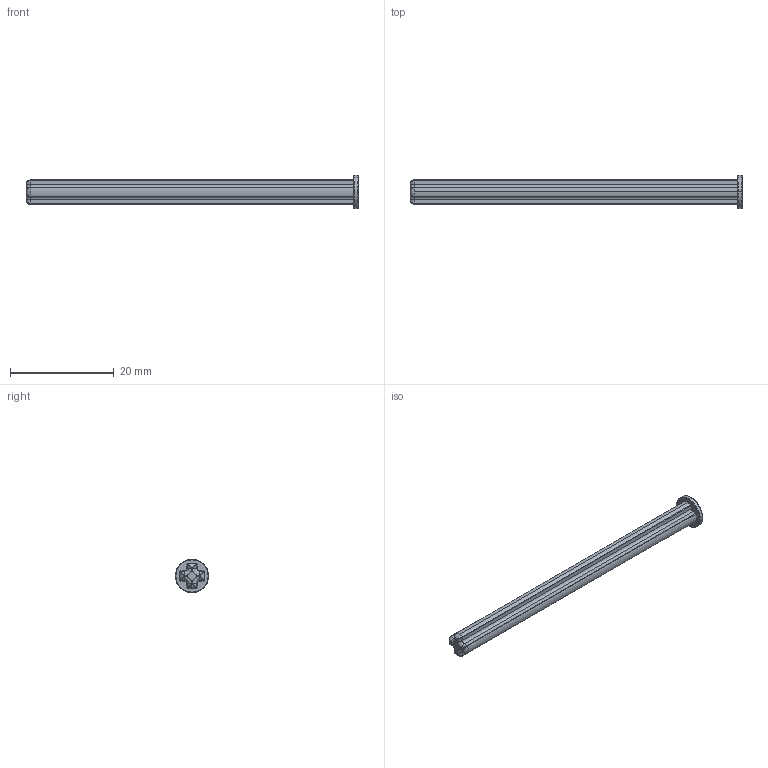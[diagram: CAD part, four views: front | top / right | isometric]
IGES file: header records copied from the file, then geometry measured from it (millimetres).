
Start section: SolidWorks IGES file using analytic representation for surfaces
Global section: file name: C:\Users\PC\Desktop\Lego Technik Gear and Axles\Axles\STEP, IGES, STL\55013 Black Technic Axle 8 with Stop.IGS; native system: SolidWorks 2014; preprocessor: SolidWorks 2014; author: PC; date: 150218.234304; units: millimetre
Bounding box: 64 x 6.4 x 6.4 mm (x, y, z)
Surface area: 1145.3 mm2 (no closed solid volume)
Topology: 0 solids, 0 shells, 84 faces, 557 edges, 549 vertices
Faces by surface type: bspline 49, revolution 35
